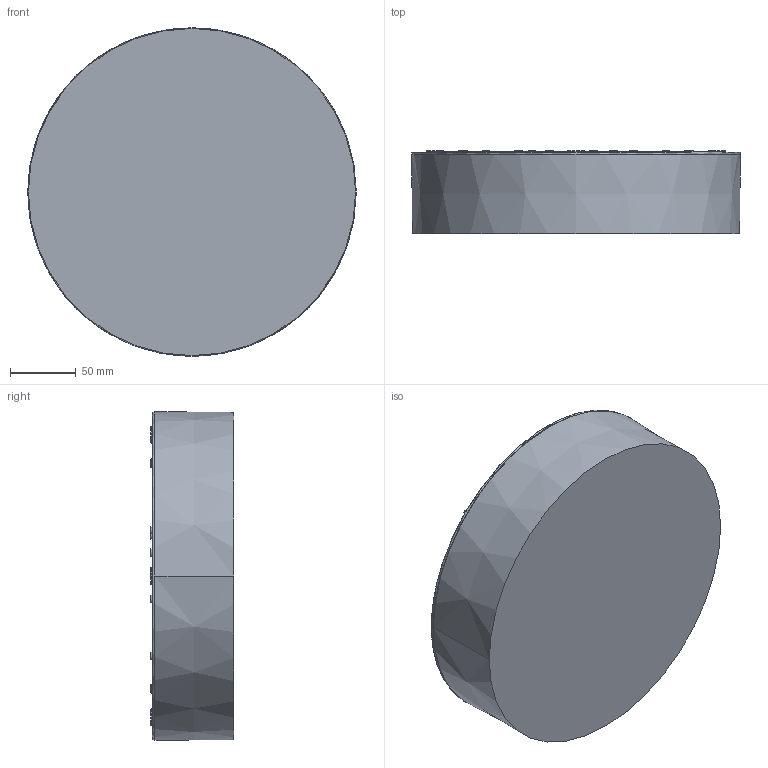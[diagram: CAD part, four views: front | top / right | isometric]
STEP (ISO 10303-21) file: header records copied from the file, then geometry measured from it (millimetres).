
FILE_DESCRIPTION((''),'2;1');
FILE_NAME('ART_TONDA','2026-05-22T09:27:03',('Piccioli'),(''),'CREO PARAMETRIC BY PTC INC, 2025010','CREO PARAMETRIC BY PTC INC, 2025010','');
FILE_SCHEMA(('CONFIG_CONTROL_DESIGN'));
Length unit declared in the file: millimetre
Products named in the file (1): ART_TONDA
Bounding box: 250 x 63.52 x 249.99 mm (x, y, z)
Surface area: 148774.2 mm2 (no closed solid volume)
Topology: 0 solids, 16 shells, 131 faces, 336 edges, 212 vertices
Faces by surface type: torus 60, cone 28, plane 23, cylinder 20
Entity records: 4599 total; most frequent: CARTESIAN_POINT 1427, DIRECTION 746, ORIENTED_EDGE 566, AXIS2_PLACEMENT_3D 341, EDGE_CURVE 336, VERTEX_POINT 212, CIRCLE 210, EDGE_LOOP 131
